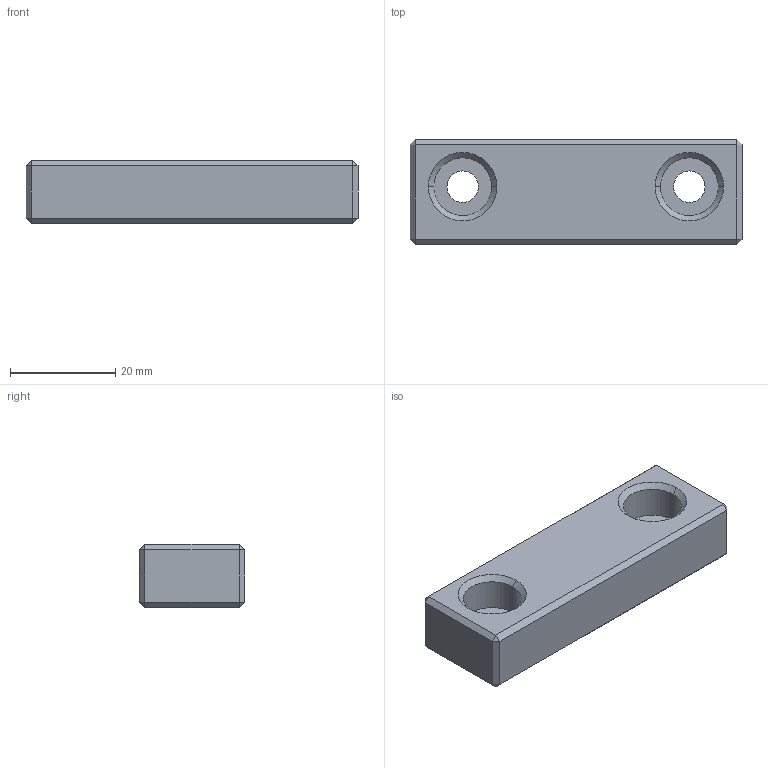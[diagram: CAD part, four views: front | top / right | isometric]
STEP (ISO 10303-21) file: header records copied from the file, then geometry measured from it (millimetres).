
FILE_DESCRIPTION (( 'STEP AP214' ), '1' );
FILE_NAME ('BR3143-20-12-63.STEP', '2020-06-30T08:35:44', ( '' ), ( '' ), 'SwSTEP 2.0', 'SolidWorks 2018', '' );
FILE_SCHEMA (( 'AUTOMOTIVE_DESIGN' ));
Length unit declared in the file: millimetre
Products named in the file (1): BR3143-20-12-63
Bounding box: 63 x 20 x 12 mm (x, y, z)
Volume: 13264.5 mm3; surface area: 4788.2 mm2
Topology: 1 solids, 1 shells, 44 faces, 88 edges, 48 vertices
Faces by surface type: plane 28, cone 8, cylinder 8
Entity records: 1142 total; most frequent: DIRECTION 202, CARTESIAN_POINT 181, ORIENTED_EDGE 176, EDGE_CURVE 88, AXIS2_PLACEMENT_3D 69, LINE 64, VECTOR 64, EDGE_LOOP 50
